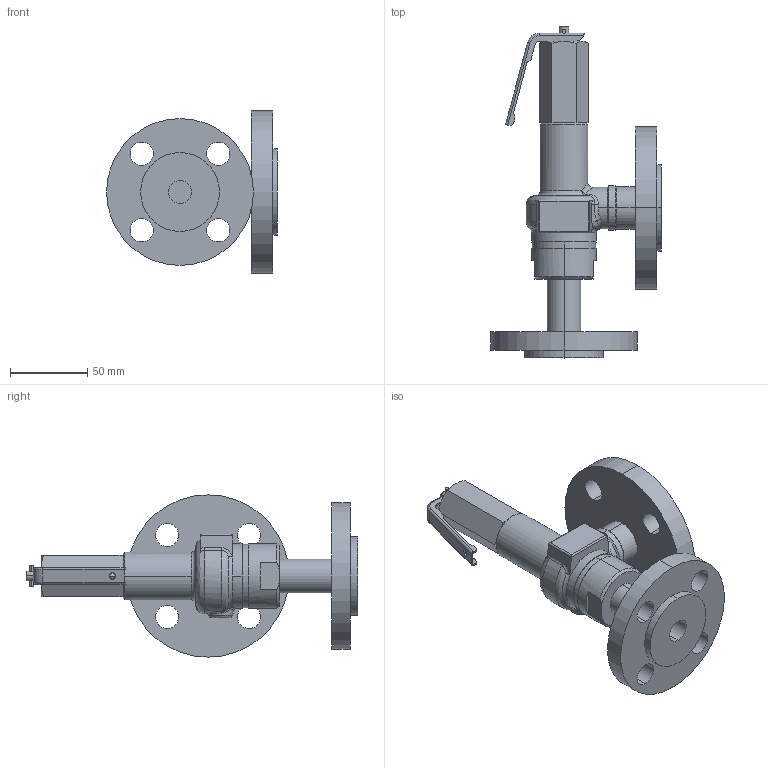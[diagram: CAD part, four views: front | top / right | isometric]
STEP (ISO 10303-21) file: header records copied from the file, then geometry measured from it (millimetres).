
FILE_DESCRIPTION( (''), '2;1');
FILE_NAME ('PC1276.14284.AL-32ML 15A_31535.stp','2025-12-05T09:05:57',(''),(''),'spGate 20.6.3 (****-****-****-****)','','');
FILE_SCHEMA (('AUTOMOTIVE_DESIGN'));
Length unit declared in the file: millimetre
Products named in the file (3): Assembly; AL-12 Lever; AL-32ML 15A(non-lever)-3D
Assembly tree (2 placements, depth 2):
  Assembly
    AL-12 Lever
    AL-32ML 15A(non-lever)-3D
Bounding box: 110.5 x 214.75 x 105 mm (x, y, z)
Volume: 374975.6 mm3; surface area: 73453.6 mm2
Topology: 2 solids, 2 shells, 198 faces, 490 edges, 309 vertices
Faces by surface type: cylinder 81, plane 66, bspline 47, sphere 4
Entity records: 11739 total; most frequent: CARTESIAN_POINT 3334, ORIENTED_EDGE 980, DIRECTION 874, COLOUR_RGB 690, PRESENTATION_STYLE_ASSIGNMENT 690, STYLED_ITEM 690, EDGE_CURVE 490, DRAUGHTING_PRE_DEFINED_CURVE_FONT 490
